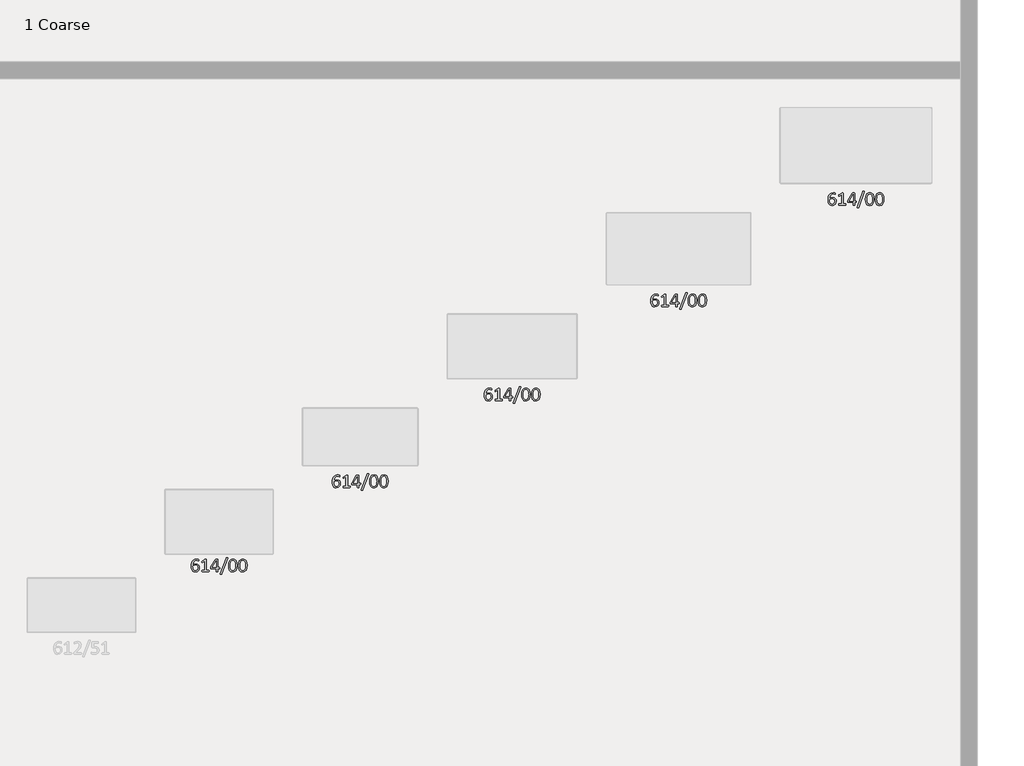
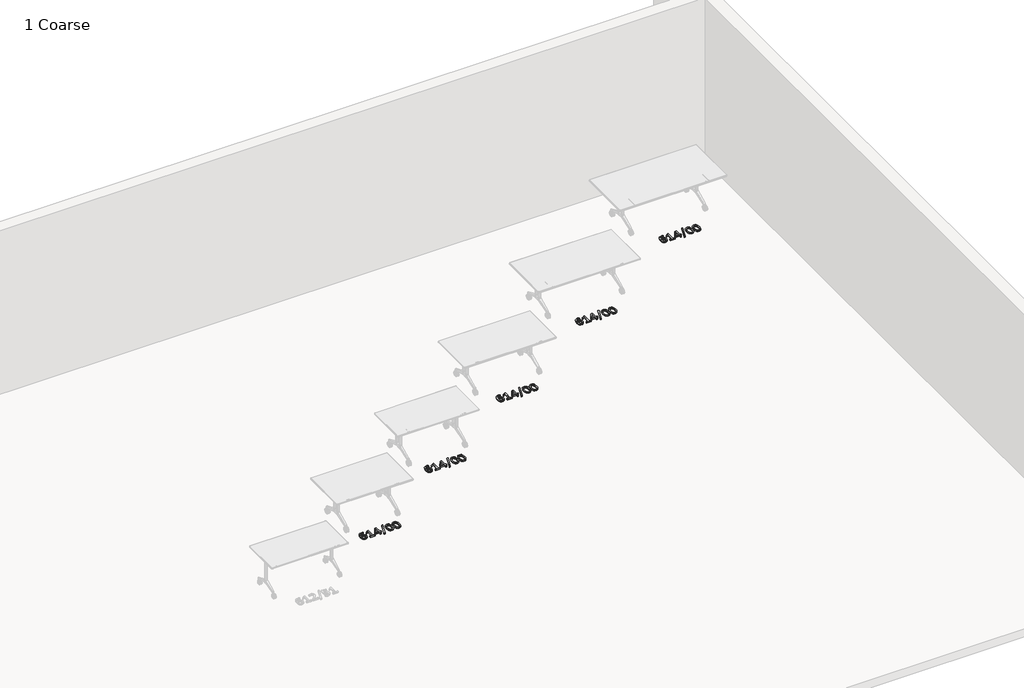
# One storey, part 3 of 3: 5 proxies.
"""IFC4 building model written with IfcOpenShell, lengths in millimetres."""

from ifc_helpers import new_model, si_unit, origin, origin_with_axes, place, context, project, spatial, polyline, outline, extrude, element, save

model = new_model("IFC4")

# Units and contexts
model_context = context("Model", 3, world=origin())
ifc_project = project(units=[si_unit("LENGTHUNIT", "METRE", prefix="MILLI")], contexts=[model_context])

# Site, building, storey
site = spatial("IfcSite", under=ifc_project)
building = spatial("IfcBuilding", under=site)
storey = spatial("IfcBuildingStorey", under=building, Name="1 Coarse", Elevation=0.0)

# Proxies
placement = place(None, origin())
element("IfcBuildingElementProxy", 1, Name="200mm Arial", ObjectType="200mm Arial", at=placement, inside=storey, context=model_context, shape_type="SweptSolid", body=[
    extrude(outline(polyline([(11853.4943741, -3474.9020252), (11850.0876118, -3496.80264), (11839.5855626, -3515.4245662), (11821.6040052, -3528.3344023), (11795.9124069, -3533.2012055), (11777.1624069, -3530.5372711), (11762.9974478, -3522.9553039), (11752.982079, -3510.86514), (11746.5527757, -3494.4973121), (11743.0691692, -3474.3897301), (11742.0189642, -3450.9778449), (11743.1716282, -3428.6417793), (11747.3212183, -3406.8180088), (11755.4154806, -3387.0690334), (11768.1972429, -3370.9829678), (11786.6142511, -3360.1479269), (11811.5886364, -3356.1520252), (11821.2710134, -3356.6899351), (11830.3386364, -3358.1243613), (11837.3314642, -3360.0966973), (11841.0712183, -3361.8385006), (11842.4288003, -3363.2729269), (11843.1460134, -3364.9378859), (11843.5302347, -3366.9870662), (11843.6583085, -3369.7790744), (11843.5814642, -3373.6212875), (11843.0691692, -3376.3620662), (11841.9165052, -3377.9245662), (11840.0722429, -3378.4368613), (11836.2044151, -3377.5147301), (11830.2874069, -3375.4911646), (11821.8601528, -3373.467599), (11810.3591282, -3372.5454678), (11789.7648659, -3377.7708777), (11775.6767511, -3391.8077629), (11767.5824888, -3412.2483367), (11764.5599478, -3436.070058), (11772.2187593, -3432.0997711), (11781.5425298, -3428.5649351), (11792.1982675, -3426.0034596), (11804.2628167, -3425.0044842), (11827.4185544, -3428.7954678), (11842.6849478, -3439.297517), (11851.0097429, -3455.1274351), (11853.4943741, -3474.9020252)]), holes=[polyline([(11830.5435544, -3475.5680088), (11829.0322839, -3461.4542793), (11824.0117921, -3450.6448531), (11814.6111773, -3443.8057137), (11800.1132265, -3441.3979269), (11790.4564642, -3442.2688285), (11781.107079, -3444.6766154), (11772.4749069, -3448.2882957), (11764.9697839, -3452.7708777), (11767.1214232, -3481.7411646), (11773.397038, -3500.4399351), (11783.6429396, -3510.5065334), (11798.0128167, -3513.5290744), (11812.5107675, -3510.3016154), (11822.7054396, -3501.6438285), (11828.6480626, -3489.4512055), (11830.5435544, -3475.5680088)])]), origin_with_axes(), (0.0, 0.0, 1.0), 25.0),
    extrude(outline(polyline([(11987.9206036, -3520.24014), (11987.5363823, -3524.7995662), (11986.4861773, -3527.7964924), (11984.9749069, -3529.4358367), (11983.2074888, -3529.922517), (11894.2730626, -3529.922517), (11892.5824888, -3529.4358367), (11891.0712183, -3527.7964924), (11889.9441692, -3524.7995662), (11889.5599478, -3520.24014), (11889.9441692, -3515.8087875), (11890.9175298, -3512.735017), (11892.3263413, -3510.8907547), (11894.1706036, -3510.2503859), (11928.9042101, -3510.2503859), (11928.9042101, -3382.3815334), (11897.2956036, -3402.0536646), (11893.4277757, -3403.6161646), (11891.0712183, -3403.0270252), (11889.8673249, -3400.235017), (11889.5599478, -3395.342599), (11889.7392511, -3391.6028449), (11890.3027757, -3389.0157547), (11891.3785954, -3387.1971072), (11893.2484724, -3385.6602219), (11931.00462, -3360.967599), (11934.3601528, -3359.8405498), (11937.152161, -3359.507558), (11941.1480626, -3359.4307137), (11946.5015462, -3359.6868613), (11949.8314642, -3360.4040744), (11951.4451937, -3361.5823531), (11951.4451937, -3510.2503859), (11983.1050298, -3510.2503859), (11985.1029806, -3510.8907547), (11986.6398659, -3512.735017), (11987.5876118, -3515.8087875), (11987.9206036, -3520.24014)])), origin_with_axes(), (0.0, 0.0, 1.0), 25.0),
    extrude(outline(polyline([(12133.4124069, -3480.7421892), (12132.0804396, -3487.9399351), (12128.3919151, -3490.5782547), (12109.232079, -3490.5782547), (12109.232079, -3525.8753859), (12108.6941692, -3527.6684187), (12106.7730626, -3528.8979269), (12103.186997, -3529.6663695), (12097.5517511, -3529.922517), (12092.0701937, -3529.6663695), (12088.5609724, -3528.8979269), (12086.7679396, -3527.6684187), (12086.2812593, -3525.8753859), (12086.2812593, -3490.5782547), (12016.8652757, -3490.5782547), (12014.2525708, -3490.1684187), (12012.3826937, -3488.6571482), (12011.2044151, -3485.5065334), (12010.8714232, -3480.1786646), (12010.999497, -3475.5167793), (12011.5117921, -3471.7514105), (12012.561997, -3468.4727219), (12014.0988823, -3465.1171892), (12074.6009314, -3363.4266154), (12076.5476528, -3361.6335826), (12079.8775708, -3360.3528449), (12084.8980626, -3359.6356318), (12091.9165052, -3359.4307137), (12099.7033905, -3359.7637055), (12105.0568741, -3360.6089924), (12108.1562593, -3361.9665744), (12109.232079, -3363.9389105), (12109.232079, -3470.9061236), (12128.3919151, -3470.9061236), (12132.0292101, -3473.3395252), (12133.4124069, -3480.7421892)]), holes=[polyline([(12086.2812593, -3379.1540744), (12031.4656855, -3470.9061236), (12086.2812593, -3470.9061236), (12086.2812593, -3379.1540744)])]), origin_with_axes(), (0.0, 0.0, 1.0), 25.0),
    extrude(outline(polyline([(12164.0988823, -3560.762681), (12162.6900708, -3563.4266154), (12160.5384314, -3564.9378859), (12157.3109724, -3565.7319433), (12152.6747019, -3565.9880908), (12147.2187593, -3565.5270252), (12143.8632265, -3564.2206728), (12142.4288003, -3562.1202629), (12142.9410954, -3559.1745662), (12222.3468331, -3341.7053039), (12223.7556446, -3339.0413695), (12225.8560544, -3337.4788695), (12229.0578987, -3336.6848121), (12233.7710134, -3336.4798941), (12239.1501118, -3336.9409596), (12242.4288003, -3338.1960826), (12243.8888413, -3340.2964924), (12243.50462, -3343.2934187), (12164.0988823, -3560.762681)])), origin_with_axes(), (0.0, 0.0, 1.0), 25.0),
    extrude(outline(polyline([(12374.8058495, -3444.2667793), (12371.7064642, -3480.4348121), (12361.4093331, -3508.5341973), (12353.1101528, -3518.965806), (12342.6081036, -3526.7462875), (12329.6534417, -3531.587476), (12313.9964232, -3533.2012055), (12299.178288, -3531.7539719), (12286.8960134, -3527.4122711), (12276.9574888, -3520.2657547), (12269.1706036, -3510.4040744), (12259.6163003, -3482.7657547), (12256.7730626, -3445.0864514), (12259.9492921, -3408.9952629), (12270.2464232, -3380.8190334), (12278.4879704, -3370.3874248), (12288.9708085, -3362.6069433), (12301.8870482, -3357.7657547), (12317.4288003, -3356.1520252), (12332.3622019, -3357.5992588), (12344.6828987, -3361.9409596), (12354.6214232, -3369.087476), (12362.4083085, -3378.9491564), (12371.9626118, -3406.587476), (12374.8058495, -3444.2667793)]), holes=[polyline([(12351.8550298, -3445.8548941), (12350.9328987, -3423.0321482), (12348.2177347, -3405.1786646), (12343.5558495, -3391.8846072), (12336.7167101, -3382.7145252), (12327.6234724, -3377.4635006), (12316.0968331, -3375.8241564), (12297.7822839, -3381.075181), (12286.6910954, -3395.4962875), (12281.1839232, -3416.9870662), (12279.7238823, -3443.4983367), (12281.7218331, -3475.8241564), (12288.0230626, -3497.5454678), (12299.0374069, -3509.7380908), (12315.3283905, -3513.5290744), (12328.4175298, -3511.172517), (12338.1255216, -3504.4102219), (12344.8109724, -3493.8569433), (12349.0630216, -3480.2298941), (12351.2658905, -3464.0157547), (12351.8550298, -3445.8548941)])]), origin_with_axes(), (0.0, 0.0, 1.0), 25.0),
    extrude(outline(polyline([(12512.5107675, -3444.2667793), (12509.4113823, -3480.4348121), (12499.1142511, -3508.5341973), (12490.8150708, -3518.965806), (12480.3130216, -3526.7462875), (12467.3583597, -3531.587476), (12451.7013413, -3533.2012055), (12436.883206, -3531.7539719), (12424.6009314, -3527.4122711), (12414.6624069, -3520.2657547), (12406.8755216, -3510.4040744), (12397.3212183, -3482.7657547), (12394.4779806, -3445.0864514), (12397.6542101, -3408.9952629), (12407.9513413, -3380.8190334), (12416.1928884, -3370.3874248), (12426.6757265, -3362.6069433), (12439.5919663, -3357.7657547), (12455.1337183, -3356.1520252), (12470.06712, -3357.5992588), (12482.3878167, -3361.9409596), (12492.3263413, -3369.087476), (12500.1132265, -3378.9491564), (12509.6675298, -3406.587476), (12512.5107675, -3444.2667793)]), holes=[polyline([(12489.5599478, -3445.8548941), (12488.6378167, -3423.0321482), (12485.9226528, -3405.1786646), (12481.2607675, -3391.8846072), (12474.4216282, -3382.7145252), (12465.3283905, -3377.4635006), (12453.8017511, -3375.8241564), (12435.4872019, -3381.075181), (12424.3960134, -3395.4962875), (12418.8888413, -3416.9870662), (12417.4288003, -3443.4983367), (12419.4267511, -3475.8241564), (12425.7279806, -3497.5454678), (12436.7423249, -3509.7380908), (12453.0333085, -3513.5290744), (12466.1224478, -3511.172517), (12475.8304396, -3504.4102219), (12482.5158905, -3493.8569433), (12486.7679396, -3480.2298941), (12488.9708085, -3464.0157547), (12489.5599478, -3445.8548941)])]), origin_with_axes(), (0.0, 0.0, 1.0), 25.0),
])
element("IfcBuildingElementProxy", 2, Name="200mm Arial", ObjectType="200mm Arial", at=placement, inside=storey, context=model_context, shape_type="SweptSolid", body=[
    extrude(outline(polyline([(13803.4943741, -2312.0322854), (13800.0876118, -2333.9329001), (13789.5855626, -2352.5548264), (13771.6040052, -2365.4646624), (13745.9124069, -2370.3314657), (13727.1624069, -2367.6675313), (13712.9974478, -2360.0855641), (13702.982079, -2347.9954001), (13696.5527757, -2331.6275723), (13693.0691692, -2311.5199903), (13692.0189642, -2288.1081051), (13693.1716282, -2265.7720395), (13697.3212183, -2243.948269), (13705.4154806, -2224.1992936), (13718.1972429, -2208.113228), (13736.6142511, -2197.278187), (13761.5886364, -2193.2822854), (13771.2710134, -2193.8201952), (13780.3386364, -2195.2546214), (13787.3314642, -2197.2269575), (13791.0712183, -2198.9687608), (13792.4288003, -2200.403187), (13793.1460134, -2202.068146), (13793.5302347, -2204.1173264), (13793.6583085, -2206.9093346), (13793.5814642, -2210.7515477), (13793.0691692, -2213.4923264), (13791.9165052, -2215.0548264), (13790.0722429, -2215.5671214), (13786.2044151, -2214.6449903), (13780.2874069, -2212.6214247), (13771.8601528, -2210.5978592), (13760.3591282, -2209.675728), (13739.7648659, -2214.9011378), (13725.6767511, -2228.9380231), (13717.5824888, -2249.3785969), (13714.5599478, -2273.2003182), (13722.2187593, -2269.2300313), (13731.5425298, -2265.6951952), (13742.1982675, -2263.1337198), (13754.2628167, -2262.1347444), (13777.4185544, -2265.925728), (13792.6849478, -2276.4277772), (13801.0097429, -2292.2576952), (13803.4943741, -2312.0322854)]), holes=[polyline([(13780.5435544, -2312.698269), (13779.0322839, -2298.5845395), (13774.0117921, -2287.7751133), (13764.6111773, -2280.9359739), (13750.1132265, -2278.528187), (13740.4564642, -2279.3990887), (13731.107079, -2281.8068755), (13722.4749069, -2285.4185559), (13714.9697839, -2289.9011378), (13717.1214232, -2318.8714247), (13723.397038, -2337.5701952), (13733.6429396, -2347.6367936), (13748.0128167, -2350.6593346), (13762.5107675, -2347.4318755), (13772.7054396, -2338.7740887), (13778.6480626, -2326.5814657), (13780.5435544, -2312.698269)])]), origin_with_axes(), (0.0, 0.0, 1.0), 25.0),
    extrude(outline(polyline([(13937.9206036, -2357.3704001), (13937.5363823, -2361.9298264), (13936.4861773, -2364.9267526), (13934.9749069, -2366.5660969), (13933.2074888, -2367.0527772), (13844.2730626, -2367.0527772), (13842.5824888, -2366.5660969), (13841.0712183, -2364.9267526), (13839.9441692, -2361.9298264), (13839.5599478, -2357.3704001), (13839.9441692, -2352.9390477), (13840.9175298, -2349.8652772), (13842.3263413, -2348.0210149), (13844.1706036, -2347.380646), (13878.9042101, -2347.380646), (13878.9042101, -2219.5117936), (13847.2956036, -2239.1839247), (13843.4277757, -2240.7464247), (13841.0712183, -2240.1572854), (13839.8673249, -2237.3652772), (13839.5599478, -2232.4728592), (13839.7392511, -2228.7331051), (13840.3027757, -2226.1460149), (13841.3785954, -2224.3273674), (13843.2484724, -2222.7904821), (13881.00462, -2198.0978592), (13884.3601528, -2196.97081), (13887.152161, -2196.6378182), (13891.1480626, -2196.5609739), (13896.5015462, -2196.8171214), (13899.8314642, -2197.5343346), (13901.4451937, -2198.7126133), (13901.4451937, -2347.380646), (13933.1050298, -2347.380646), (13935.1029806, -2348.0210149), (13936.6398659, -2349.8652772), (13937.5876118, -2352.9390477), (13937.9206036, -2357.3704001)])), origin_with_axes(), (0.0, 0.0, 1.0), 25.0),
    extrude(outline(polyline([(14083.4124069, -2317.8724493), (14082.0804396, -2325.0701952), (14078.3919151, -2327.7085149), (14059.232079, -2327.7085149), (14059.232079, -2363.005646), (14058.6941692, -2364.7986788), (14056.7730626, -2366.028187), (14053.186997, -2366.7966296), (14047.5517511, -2367.0527772), (14042.0701937, -2366.7966296), (14038.5609724, -2366.028187), (14036.7679396, -2364.7986788), (14036.2812593, -2363.005646), (14036.2812593, -2327.7085149), (13966.8652757, -2327.7085149), (13964.2525708, -2327.2986788), (13962.3826937, -2325.7874083), (13961.2044151, -2322.6367936), (13960.8714232, -2317.3089247), (13960.999497, -2312.6470395), (13961.5117921, -2308.8816706), (13962.561997, -2305.6029821), (13964.0988823, -2302.2474493), (14024.6009314, -2200.5568755), (14026.5476528, -2198.7638428), (14029.8775708, -2197.4831051), (14034.8980626, -2196.7658919), (14041.9165052, -2196.5609739), (14049.7033905, -2196.8939657), (14055.0568741, -2197.7392526), (14058.1562593, -2199.0968346), (14059.232079, -2201.0691706), (14059.232079, -2308.0363837), (14078.3919151, -2308.0363837), (14082.0292101, -2310.4697854), (14083.4124069, -2317.8724493)]), holes=[polyline([(14036.2812593, -2216.2843346), (13981.4656855, -2308.0363837), (14036.2812593, -2308.0363837), (14036.2812593, -2216.2843346)])]), origin_with_axes(), (0.0, 0.0, 1.0), 25.0),
    extrude(outline(polyline([(14114.0988823, -2397.8929411), (14112.6900708, -2400.5568755), (14110.5384314, -2402.068146), (14107.3109724, -2402.8622034), (14102.6747019, -2403.118351), (14097.2187593, -2402.6572854), (14093.8632265, -2401.3509329), (14092.4288003, -2399.2505231), (14092.9410954, -2396.3048264), (14172.3468331, -2178.8355641), (14173.7556446, -2176.1716296), (14175.8560544, -2174.6091296), (14179.0578987, -2173.8150723), (14183.7710134, -2173.6101542), (14189.1501118, -2174.0712198), (14192.4288003, -2175.3263428), (14193.8888413, -2177.4267526), (14193.50462, -2180.4236788), (14114.0988823, -2397.8929411)])), origin_with_axes(), (0.0, 0.0, 1.0), 25.0),
    extrude(outline(polyline([(14324.8058495, -2281.3970395), (14321.7064642, -2317.5650723), (14311.4093331, -2345.6644575), (14303.1101528, -2356.0960661), (14292.6081036, -2363.8765477), (14279.6534417, -2368.7177362), (14263.9964232, -2370.3314657), (14249.178288, -2368.8842321), (14236.8960134, -2364.5425313), (14226.9574888, -2357.3960149), (14219.1706036, -2347.5343346), (14209.6163003, -2319.8960149), (14206.7730626, -2282.2167116), (14209.9492921, -2246.1255231), (14220.2464232, -2217.9492936), (14228.4879704, -2207.517685), (14238.9708085, -2199.7372034), (14251.8870482, -2194.8960149), (14267.4288003, -2193.2822854), (14282.3622019, -2194.729519), (14294.6828987, -2199.0712198), (14304.6214232, -2206.2177362), (14312.4083085, -2216.0794165), (14321.9626118, -2243.7177362), (14324.8058495, -2281.3970395)]), holes=[polyline([(14301.8550298, -2282.9851542), (14300.9328987, -2260.1624083), (14298.2177347, -2242.3089247), (14293.5558495, -2229.0148674), (14286.7167101, -2219.8447854), (14277.6234724, -2214.5937608), (14266.0968331, -2212.9544165), (14247.7822839, -2218.2054411), (14236.6910954, -2232.6265477), (14231.1839232, -2254.1173264), (14229.7238823, -2280.6285969), (14231.7218331, -2312.9544165), (14238.0230626, -2334.675728), (14249.0374069, -2346.868351), (14265.3283905, -2350.6593346), (14278.4175298, -2348.3027772), (14288.1255216, -2341.5404821), (14294.8109724, -2330.9872034), (14299.0630216, -2317.3601542), (14301.2658905, -2301.1460149), (14301.8550298, -2282.9851542)])]), origin_with_axes(), (0.0, 0.0, 1.0), 25.0),
    extrude(outline(polyline([(14462.5107675, -2281.3970395), (14459.4113823, -2317.5650723), (14449.1142511, -2345.6644575), (14440.8150708, -2356.0960661), (14430.3130216, -2363.8765477), (14417.3583597, -2368.7177362), (14401.7013413, -2370.3314657), (14386.883206, -2368.8842321), (14374.6009314, -2364.5425313), (14364.6624069, -2357.3960149), (14356.8755216, -2347.5343346), (14347.3212183, -2319.8960149), (14344.4779806, -2282.2167116), (14347.6542101, -2246.1255231), (14357.9513413, -2217.9492936), (14366.1928884, -2207.517685), (14376.6757265, -2199.7372034), (14389.5919663, -2194.8960149), (14405.1337183, -2193.2822854), (14420.06712, -2194.729519), (14432.3878167, -2199.0712198), (14442.3263413, -2206.2177362), (14450.1132265, -2216.0794165), (14459.6675298, -2243.7177362), (14462.5107675, -2281.3970395)]), holes=[polyline([(14439.5599478, -2282.9851542), (14438.6378167, -2260.1624083), (14435.9226528, -2242.3089247), (14431.2607675, -2229.0148674), (14424.4216282, -2219.8447854), (14415.3283905, -2214.5937608), (14403.8017511, -2212.9544165), (14385.4872019, -2218.2054411), (14374.3960134, -2232.6265477), (14368.8888413, -2254.1173264), (14367.4288003, -2280.6285969), (14369.4267511, -2312.9544165), (14375.7279806, -2334.675728), (14386.7423249, -2346.868351), (14403.0333085, -2350.6593346), (14416.1224478, -2348.3027772), (14425.8304396, -2341.5404821), (14432.5158905, -2330.9872034), (14436.7679396, -2317.3601542), (14438.9708085, -2301.1460149), (14439.5599478, -2282.9851542)])]), origin_with_axes(), (0.0, 0.0, 1.0), 25.0),
])
element("IfcBuildingElementProxy", 3, Name="200mm Arial", ObjectType="200mm Arial", at=placement, inside=storey, context=model_context, shape_type="SweptSolid", body=[
    extrude(outline(polyline([(15903.4943741, -1112.0322854), (15900.0876118, -1133.9329001), (15889.5855626, -1152.5548264), (15871.6040052, -1165.4646624), (15845.9124069, -1170.3314657), (15827.1624069, -1167.6675313), (15812.9974478, -1160.0855641), (15802.982079, -1147.9954001), (15796.5527757, -1131.6275723), (15793.0691692, -1111.5199903), (15792.0189642, -1088.1081051), (15793.1716282, -1065.7720395), (15797.3212183, -1043.948269), (15805.4154806, -1024.1992936), (15818.1972429, -1008.113228), (15836.6142511, -997.278187), (15861.5886364, -993.2822854), (15871.2710134, -993.8201952), (15880.3386364, -995.2546214), (15887.3314642, -997.2269575), (15891.0712183, -998.9687608), (15892.4288003, -1000.403187), (15893.1460134, -1002.068146), (15893.5302347, -1004.1173264), (15893.6583085, -1006.9093346), (15893.5814642, -1010.7515477), (15893.0691692, -1013.4923264), (15891.9165052, -1015.0548264), (15890.0722429, -1015.5671214), (15886.2044151, -1014.6449903), (15880.2874069, -1012.6214247), (15871.8601528, -1010.5978592), (15860.3591282, -1009.675728), (15839.7648659, -1014.9011378), (15825.6767511, -1028.9380231), (15817.5824888, -1049.3785969), (15814.5599478, -1073.2003182), (15822.2187593, -1069.2300313), (15831.5425298, -1065.6951952), (15842.1982675, -1063.1337198), (15854.2628167, -1062.1347444), (15877.4185544, -1065.925728), (15892.6849478, -1076.4277772), (15901.0097429, -1092.2576952), (15903.4943741, -1112.0322854)]), holes=[polyline([(15880.5435544, -1112.698269), (15879.0322839, -1098.5845395), (15874.0117921, -1087.7751133), (15864.6111773, -1080.9359739), (15850.1132265, -1078.528187), (15840.4564642, -1079.3990887), (15831.107079, -1081.8068755), (15822.4749069, -1085.4185559), (15814.9697839, -1089.9011378), (15817.1214232, -1118.8714247), (15823.397038, -1137.5701952), (15833.6429396, -1147.6367936), (15848.0128167, -1150.6593346), (15862.5107675, -1147.4318755), (15872.7054396, -1138.7740887), (15878.6480626, -1126.5814657), (15880.5435544, -1112.698269)])]), origin_with_axes(), (0.0, 0.0, 1.0), 25.0),
    extrude(outline(polyline([(16037.9206036, -1157.3704001), (16037.5363823, -1161.9298264), (16036.4861773, -1164.9267526), (16034.9749069, -1166.5660969), (16033.2074888, -1167.0527772), (15944.2730626, -1167.0527772), (15942.5824888, -1166.5660969), (15941.0712183, -1164.9267526), (15939.9441692, -1161.9298264), (15939.5599478, -1157.3704001), (15939.9441692, -1152.9390477), (15940.9175298, -1149.8652772), (15942.3263413, -1148.0210149), (15944.1706036, -1147.380646), (15978.9042101, -1147.380646), (15978.9042101, -1019.5117936), (15947.2956036, -1039.1839247), (15943.4277757, -1040.7464247), (15941.0712183, -1040.1572854), (15939.8673249, -1037.3652772), (15939.5599478, -1032.4728592), (15939.7392511, -1028.7331051), (15940.3027757, -1026.1460149), (15941.3785954, -1024.3273674), (15943.2484724, -1022.7904821), (15981.00462, -998.0978592), (15984.3601528, -996.97081), (15987.152161, -996.6378182), (15991.1480626, -996.5609739), (15996.5015462, -996.8171214), (15999.8314642, -997.5343346), (16001.4451937, -998.7126133), (16001.4451937, -1147.380646), (16033.1050298, -1147.380646), (16035.1029806, -1148.0210149), (16036.6398659, -1149.8652772), (16037.5876118, -1152.9390477), (16037.9206036, -1157.3704001)])), origin_with_axes(), (0.0, 0.0, 1.0), 25.0),
    extrude(outline(polyline([(16183.4124069, -1117.8724493), (16182.0804396, -1125.0701952), (16178.3919151, -1127.7085149), (16159.232079, -1127.7085149), (16159.232079, -1163.005646), (16158.6941692, -1164.7986788), (16156.7730626, -1166.028187), (16153.186997, -1166.7966296), (16147.5517511, -1167.0527772), (16142.0701937, -1166.7966296), (16138.5609724, -1166.028187), (16136.7679396, -1164.7986788), (16136.2812593, -1163.005646), (16136.2812593, -1127.7085149), (16066.8652757, -1127.7085149), (16064.2525708, -1127.2986788), (16062.3826937, -1125.7874083), (16061.2044151, -1122.6367936), (16060.8714232, -1117.3089247), (16060.999497, -1112.6470395), (16061.5117921, -1108.8816706), (16062.561997, -1105.6029821), (16064.0988823, -1102.2474493), (16124.6009314, -1000.5568755), (16126.5476528, -998.7638428), (16129.8775708, -997.4831051), (16134.8980626, -996.7658919), (16141.9165052, -996.5609739), (16149.7033905, -996.8939657), (16155.0568741, -997.7392526), (16158.1562593, -999.0968346), (16159.232079, -1001.0691706), (16159.232079, -1108.0363837), (16178.3919151, -1108.0363837), (16182.0292101, -1110.4697854), (16183.4124069, -1117.8724493)]), holes=[polyline([(16136.2812593, -1016.2843346), (16081.4656855, -1108.0363837), (16136.2812593, -1108.0363837), (16136.2812593, -1016.2843346)])]), origin_with_axes(), (0.0, 0.0, 1.0), 25.0),
    extrude(outline(polyline([(16214.0988823, -1197.8929411), (16212.6900708, -1200.5568755), (16210.5384314, -1202.068146), (16207.3109724, -1202.8622034), (16202.6747019, -1203.118351), (16197.2187593, -1202.6572854), (16193.8632265, -1201.3509329), (16192.4288003, -1199.2505231), (16192.9410954, -1196.3048264), (16272.3468331, -978.8355641), (16273.7556446, -976.1716296), (16275.8560544, -974.6091296), (16279.0578987, -973.8150723), (16283.7710134, -973.6101542), (16289.1501118, -974.0712198), (16292.4288003, -975.3263428), (16293.8888413, -977.4267526), (16293.50462, -980.4236788), (16214.0988823, -1197.8929411)])), origin_with_axes(), (0.0, 0.0, 1.0), 25.0),
    extrude(outline(polyline([(16424.8058495, -1081.3970395), (16421.7064642, -1117.5650723), (16411.4093331, -1145.6644575), (16403.1101528, -1156.0960661), (16392.6081036, -1163.8765477), (16379.6534417, -1168.7177362), (16363.9964232, -1170.3314657), (16349.178288, -1168.8842321), (16336.8960134, -1164.5425313), (16326.9574888, -1157.3960149), (16319.1706036, -1147.5343346), (16309.6163003, -1119.8960149), (16306.7730626, -1082.2167116), (16309.9492921, -1046.1255231), (16320.2464232, -1017.9492936), (16328.4879704, -1007.517685), (16338.9708085, -999.7372034), (16351.8870482, -994.8960149), (16367.4288003, -993.2822854), (16382.3622019, -994.729519), (16394.6828987, -999.0712198), (16404.6214232, -1006.2177362), (16412.4083085, -1016.0794165), (16421.9626118, -1043.7177362), (16424.8058495, -1081.3970395)]), holes=[polyline([(16401.8550298, -1082.9851542), (16400.9328987, -1060.1624083), (16398.2177347, -1042.3089247), (16393.5558495, -1029.0148674), (16386.7167101, -1019.8447854), (16377.6234724, -1014.5937608), (16366.0968331, -1012.9544165), (16347.7822839, -1018.2054411), (16336.6910954, -1032.6265477), (16331.1839232, -1054.1173264), (16329.7238823, -1080.6285969), (16331.7218331, -1112.9544165), (16338.0230626, -1134.675728), (16349.0374069, -1146.868351), (16365.3283905, -1150.6593346), (16378.4175298, -1148.3027772), (16388.1255216, -1141.5404821), (16394.8109724, -1130.9872034), (16399.0630216, -1117.3601542), (16401.2658905, -1101.1460149), (16401.8550298, -1082.9851542)])]), origin_with_axes(), (0.0, 0.0, 1.0), 25.0),
    extrude(outline(polyline([(16562.5107675, -1081.3970395), (16559.4113823, -1117.5650723), (16549.1142511, -1145.6644575), (16540.8150708, -1156.0960661), (16530.3130216, -1163.8765477), (16517.3583597, -1168.7177362), (16501.7013413, -1170.3314657), (16486.883206, -1168.8842321), (16474.6009314, -1164.5425313), (16464.6624069, -1157.3960149), (16456.8755216, -1147.5343346), (16447.3212183, -1119.8960149), (16444.4779806, -1082.2167116), (16447.6542101, -1046.1255231), (16457.9513413, -1017.9492936), (16466.1928884, -1007.517685), (16476.6757265, -999.7372034), (16489.5919663, -994.8960149), (16505.1337183, -993.2822854), (16520.06712, -994.729519), (16532.3878167, -999.0712198), (16542.3263413, -1006.2177362), (16550.1132265, -1016.0794165), (16559.6675298, -1043.7177362), (16562.5107675, -1081.3970395)]), holes=[polyline([(16539.5599478, -1082.9851542), (16538.6378167, -1060.1624083), (16535.9226528, -1042.3089247), (16531.2607675, -1029.0148674), (16524.4216282, -1019.8447854), (16515.3283905, -1014.5937608), (16503.8017511, -1012.9544165), (16485.4872019, -1018.2054411), (16474.3960134, -1032.6265477), (16468.8888413, -1054.1173264), (16467.4288003, -1080.6285969), (16469.4267511, -1112.9544165), (16475.7279806, -1134.675728), (16486.7423249, -1146.868351), (16503.0333085, -1150.6593346), (16516.1224478, -1148.3027772), (16525.8304396, -1141.5404821), (16532.5158905, -1130.9872034), (16536.7679396, -1117.3601542), (16538.9708085, -1101.1460149), (16539.5599478, -1082.9851542)])]), origin_with_axes(), (0.0, 0.0, 1.0), 25.0),
])
element("IfcBuildingElementProxy", 4, Name="200mm Arial", ObjectType="200mm Arial", at=placement, inside=storey, context=model_context, shape_type="SweptSolid", body=[
    extrude(outline(polyline([(18203.4943741, 187.9677146), (18200.0876118, 166.0670999), (18189.5855626, 147.4451736), (18171.6040052, 134.5353376), (18145.9124069, 129.6685343), (18127.1624069, 132.3324687), (18112.9974478, 139.9144359), (18102.982079, 152.0045999), (18096.5527757, 168.3724277), (18093.0691692, 188.4800097), (18092.0189642, 211.8918949), (18093.1716282, 234.2279605), (18097.3212183, 256.051731), (18105.4154806, 275.8007064), (18118.1972429, 291.886772), (18136.6142511, 302.721813), (18161.5886364, 306.7177146), (18171.2710134, 306.1798048), (18180.3386364, 304.7453786), (18187.3314642, 302.7730425), (18191.0712183, 301.0312392), (18192.4288003, 299.596813), (18193.1460134, 297.931854), (18193.5302347, 295.8826736), (18193.6583085, 293.0906654), (18193.5814642, 289.2484523), (18193.0691692, 286.5076736), (18191.9165052, 284.9451736), (18190.0722429, 284.4328786), (18186.2044151, 285.3550097), (18180.2874069, 287.3785753), (18171.8601528, 289.4021408), (18160.3591282, 290.324272), (18139.7648659, 285.0988622), (18125.6767511, 271.0619769), (18117.5824888, 250.6214031), (18114.5599478, 226.7996818), (18122.2187593, 230.7699687), (18131.5425298, 234.3048048), (18142.1982675, 236.8662802), (18154.2628167, 237.8652556), (18177.4185544, 234.074272), (18192.6849478, 223.5722228), (18201.0097429, 207.7423048), (18203.4943741, 187.9677146)]), holes=[polyline([(18180.5435544, 187.301731), (18179.0322839, 201.4154605), (18174.0117921, 212.2248867), (18164.6111773, 219.0640261), (18150.1132265, 221.471813), (18140.4564642, 220.6009113), (18131.107079, 218.1931245), (18122.4749069, 214.5814441), (18114.9697839, 210.0988622), (18117.1214232, 181.1285753), (18123.397038, 162.4298048), (18133.6429396, 152.3632064), (18148.0128167, 149.3406654), (18162.5107675, 152.5681245), (18172.7054396, 161.2259113), (18178.6480626, 173.4185343), (18180.5435544, 187.301731)])]), origin_with_axes(), (0.0, 0.0, 1.0), 25.0),
    extrude(outline(polyline([(18337.9206036, 142.6295999), (18337.5363823, 138.0701736), (18336.4861773, 135.0732474), (18334.9749069, 133.4339031), (18333.2074888, 132.9472228), (18244.2730626, 132.9472228), (18242.5824888, 133.4339031), (18241.0712183, 135.0732474), (18239.9441692, 138.0701736), (18239.5599478, 142.6295999), (18239.9441692, 147.0609523), (18240.9175298, 150.1347228), (18242.3263413, 151.9789851), (18244.1706036, 152.619354), (18278.9042101, 152.619354), (18278.9042101, 280.4882064), (18247.2956036, 260.8160753), (18243.4277757, 259.2535753), (18241.0712183, 259.8427146), (18239.8673249, 262.6347228), (18239.5599478, 267.5271408), (18239.7392511, 271.2668949), (18240.3027757, 273.8539851), (18241.3785954, 275.6726326), (18243.2484724, 277.2095179), (18281.00462, 301.9021408), (18284.3601528, 303.02919), (18287.152161, 303.3621818), (18291.1480626, 303.4390261), (18296.5015462, 303.1828786), (18299.8314642, 302.4656654), (18301.4451937, 301.2873867), (18301.4451937, 152.619354), (18333.1050298, 152.619354), (18335.1029806, 151.9789851), (18336.6398659, 150.1347228), (18337.5876118, 147.0609523), (18337.9206036, 142.6295999)])), origin_with_axes(), (0.0, 0.0, 1.0), 25.0),
    extrude(outline(polyline([(18483.4124069, 182.1275507), (18482.0804396, 174.9298048), (18478.3919151, 172.2914851), (18459.232079, 172.2914851), (18459.232079, 136.994354), (18458.6941692, 135.2013212), (18456.7730626, 133.971813), (18453.186997, 133.2033704), (18447.5517511, 132.9472228), (18442.0701937, 133.2033704), (18438.5609724, 133.971813), (18436.7679396, 135.2013212), (18436.2812593, 136.994354), (18436.2812593, 172.2914851), (18366.8652757, 172.2914851), (18364.2525708, 172.7013212), (18362.3826937, 174.2125917), (18361.2044151, 177.3632064), (18360.8714232, 182.6910753), (18360.999497, 187.3529605), (18361.5117921, 191.1183294), (18362.561997, 194.3970179), (18364.0988823, 197.7525507), (18424.6009314, 299.4431245), (18426.5476528, 301.2361572), (18429.8775708, 302.5168949), (18434.8980626, 303.2341081), (18441.9165052, 303.4390261), (18449.7033905, 303.1060343), (18455.0568741, 302.2607474), (18458.1562593, 300.9031654), (18459.232079, 298.9308294), (18459.232079, 191.9636163), (18478.3919151, 191.9636163), (18482.0292101, 189.5302146), (18483.4124069, 182.1275507)]), holes=[polyline([(18436.2812593, 283.7156654), (18381.4656855, 191.9636163), (18436.2812593, 191.9636163), (18436.2812593, 283.7156654)])]), origin_with_axes(), (0.0, 0.0, 1.0), 25.0),
    extrude(outline(polyline([(18514.0988823, 102.1070589), (18512.6900708, 99.4431245), (18510.5384314, 97.931854), (18507.3109724, 97.1377966), (18502.6747019, 96.881649), (18497.2187593, 97.3427146), (18493.8632265, 98.6490671), (18492.4288003, 100.7494769), (18492.9410954, 103.6951736), (18572.3468331, 321.1644359), (18573.7556446, 323.8283704), (18575.8560544, 325.3908704), (18579.0578987, 326.1849277), (18583.7710134, 326.3898458), (18589.1501118, 325.9287802), (18592.4288003, 324.6736572), (18593.8888413, 322.5732474), (18593.50462, 319.5763212), (18514.0988823, 102.1070589)])), origin_with_axes(), (0.0, 0.0, 1.0), 25.0),
    extrude(outline(polyline([(18724.8058495, 218.6029605), (18721.7064642, 182.4349277), (18711.4093331, 154.3355425), (18703.1101528, 143.9039339), (18692.6081036, 136.1234523), (18679.6534417, 131.2822638), (18663.9964232, 129.6685343), (18649.178288, 131.1157679), (18636.8960134, 135.4574687), (18626.9574888, 142.6039851), (18619.1706036, 152.4656654), (18609.6163003, 180.1039851), (18606.7730626, 217.7832884), (18609.9492921, 253.8744769), (18620.2464232, 282.0507064), (18628.4879704, 292.482315), (18638.9708085, 300.2627966), (18651.8870482, 305.1039851), (18667.4288003, 306.7177146), (18682.3622019, 305.270481), (18694.6828987, 300.9287802), (18704.6214232, 293.7822638), (18712.4083085, 283.9205835), (18721.9626118, 256.2822638), (18724.8058495, 218.6029605)]), holes=[polyline([(18701.8550298, 217.0148458), (18700.9328987, 239.8375917), (18698.2177347, 257.6910753), (18693.5558495, 270.9851326), (18686.7167101, 280.1552146), (18677.6234724, 285.4062392), (18666.0968331, 287.0455835), (18647.7822839, 281.7945589), (18636.6910954, 267.3734523), (18631.1839232, 245.8826736), (18629.7238823, 219.3714031), (18631.7218331, 187.0455835), (18638.0230626, 165.324272), (18649.0374069, 153.131649), (18665.3283905, 149.3406654), (18678.4175298, 151.6972228), (18688.1255216, 158.4595179), (18694.8109724, 169.0127966), (18699.0630216, 182.6398458), (18701.2658905, 198.8539851), (18701.8550298, 217.0148458)])]), origin_with_axes(), (0.0, 0.0, 1.0), 25.0),
    extrude(outline(polyline([(18862.5107675, 218.6029605), (18859.4113823, 182.4349277), (18849.1142511, 154.3355425), (18840.8150708, 143.9039339), (18830.3130216, 136.1234523), (18817.3583597, 131.2822638), (18801.7013413, 129.6685343), (18786.883206, 131.1157679), (18774.6009314, 135.4574687), (18764.6624069, 142.6039851), (18756.8755216, 152.4656654), (18747.3212183, 180.1039851), (18744.4779806, 217.7832884), (18747.6542101, 253.8744769), (18757.9513413, 282.0507064), (18766.1928884, 292.482315), (18776.6757265, 300.2627966), (18789.5919663, 305.1039851), (18805.1337183, 306.7177146), (18820.06712, 305.270481), (18832.3878167, 300.9287802), (18842.3263413, 293.7822638), (18850.1132265, 283.9205835), (18859.6675298, 256.2822638), (18862.5107675, 218.6029605)]), holes=[polyline([(18839.5599478, 217.0148458), (18838.6378167, 239.8375917), (18835.9226528, 257.6910753), (18831.2607675, 270.9851326), (18824.4216282, 280.1552146), (18815.3283905, 285.4062392), (18803.8017511, 287.0455835), (18785.4872019, 281.7945589), (18774.3960134, 267.3734523), (18768.8888413, 245.8826736), (18767.4288003, 219.3714031), (18769.4267511, 187.0455835), (18775.7279806, 165.324272), (18786.7423249, 153.131649), (18803.0333085, 149.3406654), (18816.1224478, 151.6972228), (18825.8304396, 158.4595179), (18832.5158905, 169.0127966), (18836.7679396, 182.6398458), (18838.9708085, 198.8539851), (18839.5599478, 217.0148458)])]), origin_with_axes(), (0.0, 0.0, 1.0), 25.0),
])
element("IfcBuildingElementProxy", 5, Name="200mm Arial", ObjectType="200mm Arial", at=placement, inside=storey, context=model_context, shape_type="SweptSolid", body=[
    extrude(outline(polyline([(20653.4943741, 1587.9677146), (20650.0876118, 1566.0670999), (20639.5855626, 1547.4451736), (20621.6040052, 1534.5353376), (20595.9124069, 1529.6685343), (20577.1624069, 1532.3324687), (20562.9974478, 1539.9144359), (20552.982079, 1552.0045999), (20546.5527757, 1568.3724277), (20543.0691692, 1588.4800097), (20542.0189642, 1611.8918949), (20543.1716282, 1634.2279605), (20547.3212183, 1656.051731), (20555.4154806, 1675.8007064), (20568.1972429, 1691.886772), (20586.6142511, 1702.721813), (20611.5886364, 1706.7177146), (20621.2710134, 1706.1798048), (20630.3386364, 1704.7453786), (20637.3314642, 1702.7730425), (20641.0712183, 1701.0312392), (20642.4288003, 1699.596813), (20643.1460134, 1697.931854), (20643.5302347, 1695.8826736), (20643.6583085, 1693.0906654), (20643.5814642, 1689.2484523), (20643.0691692, 1686.5076736), (20641.9165052, 1684.9451736), (20640.0722429, 1684.4328786), (20636.2044151, 1685.3550097), (20630.2874069, 1687.3785753), (20621.8601528, 1689.4021408), (20610.3591282, 1690.324272), (20589.7648659, 1685.0988622), (20575.6767511, 1671.0619769), (20567.5824888, 1650.6214031), (20564.5599478, 1626.7996818), (20572.2187593, 1630.7699687), (20581.5425298, 1634.3048048), (20592.1982675, 1636.8662802), (20604.2628167, 1637.8652556), (20627.4185544, 1634.074272), (20642.6849478, 1623.5722228), (20651.0097429, 1607.7423048), (20653.4943741, 1587.9677146)]), holes=[polyline([(20630.5435544, 1587.301731), (20629.0322839, 1601.4154605), (20624.0117921, 1612.2248867), (20614.6111773, 1619.0640261), (20600.1132265, 1621.471813), (20590.4564642, 1620.6009113), (20581.107079, 1618.1931245), (20572.4749069, 1614.5814441), (20564.9697839, 1610.0988622), (20567.1214232, 1581.1285753), (20573.397038, 1562.4298048), (20583.6429396, 1552.3632064), (20598.0128167, 1549.3406654), (20612.5107675, 1552.5681245), (20622.7054396, 1561.2259113), (20628.6480626, 1573.4185343), (20630.5435544, 1587.301731)])]), origin_with_axes(), (0.0, 0.0, 1.0), 25.0),
    extrude(outline(polyline([(20787.9206036, 1542.6295999), (20787.5363823, 1538.0701736), (20786.4861773, 1535.0732474), (20784.9749069, 1533.4339031), (20783.2074888, 1532.9472228), (20694.2730626, 1532.9472228), (20692.5824888, 1533.4339031), (20691.0712183, 1535.0732474), (20689.9441692, 1538.0701736), (20689.5599478, 1542.6295999), (20689.9441692, 1547.0609523), (20690.9175298, 1550.1347228), (20692.3263413, 1551.9789851), (20694.1706036, 1552.619354), (20728.9042101, 1552.619354), (20728.9042101, 1680.4882064), (20697.2956036, 1660.8160753), (20693.4277757, 1659.2535753), (20691.0712183, 1659.8427146), (20689.8673249, 1662.6347228), (20689.5599478, 1667.5271408), (20689.7392511, 1671.2668949), (20690.3027757, 1673.8539851), (20691.3785954, 1675.6726326), (20693.2484724, 1677.2095179), (20731.00462, 1701.9021408), (20734.3601528, 1703.02919), (20737.152161, 1703.3621818), (20741.1480626, 1703.4390261), (20746.5015462, 1703.1828786), (20749.8314642, 1702.4656654), (20751.4451937, 1701.2873867), (20751.4451937, 1552.619354), (20783.1050298, 1552.619354), (20785.1029806, 1551.9789851), (20786.6398659, 1550.1347228), (20787.5876118, 1547.0609523), (20787.9206036, 1542.6295999)])), origin_with_axes(), (0.0, 0.0, 1.0), 25.0),
    extrude(outline(polyline([(20933.4124069, 1582.1275507), (20932.0804396, 1574.9298048), (20928.3919151, 1572.2914851), (20909.232079, 1572.2914851), (20909.232079, 1536.994354), (20908.6941692, 1535.2013212), (20906.7730626, 1533.971813), (20903.186997, 1533.2033704), (20897.5517511, 1532.9472228), (20892.0701937, 1533.2033704), (20888.5609724, 1533.971813), (20886.7679396, 1535.2013212), (20886.2812593, 1536.994354), (20886.2812593, 1572.2914851), (20816.8652757, 1572.2914851), (20814.2525708, 1572.7013212), (20812.3826937, 1574.2125917), (20811.2044151, 1577.3632064), (20810.8714232, 1582.6910753), (20810.999497, 1587.3529605), (20811.5117921, 1591.1183294), (20812.561997, 1594.3970179), (20814.0988823, 1597.7525507), (20874.6009314, 1699.4431245), (20876.5476528, 1701.2361572), (20879.8775708, 1702.5168949), (20884.8980626, 1703.2341081), (20891.9165052, 1703.4390261), (20899.7033905, 1703.1060343), (20905.0568741, 1702.2607474), (20908.1562593, 1700.9031654), (20909.232079, 1698.9308294), (20909.232079, 1591.9636163), (20928.3919151, 1591.9636163), (20932.0292101, 1589.5302146), (20933.4124069, 1582.1275507)]), holes=[polyline([(20886.2812593, 1683.7156654), (20831.4656855, 1591.9636163), (20886.2812593, 1591.9636163), (20886.2812593, 1683.7156654)])]), origin_with_axes(), (0.0, 0.0, 1.0), 25.0),
    extrude(outline(polyline([(20964.0988823, 1502.1070589), (20962.6900708, 1499.4431245), (20960.5384314, 1497.931854), (20957.3109724, 1497.1377966), (20952.6747019, 1496.881649), (20947.2187593, 1497.3427146), (20943.8632265, 1498.6490671), (20942.4288003, 1500.7494769), (20942.9410954, 1503.6951736), (21022.3468331, 1721.1644359), (21023.7556446, 1723.8283704), (21025.8560544, 1725.3908704), (21029.0578987, 1726.1849277), (21033.7710134, 1726.3898458), (21039.1501118, 1725.9287802), (21042.4288003, 1724.6736572), (21043.8888413, 1722.5732474), (21043.50462, 1719.5763212), (20964.0988823, 1502.1070589)])), origin_with_axes(), (0.0, 0.0, 1.0), 25.0),
    extrude(outline(polyline([(21174.8058495, 1618.6029605), (21171.7064642, 1582.4349277), (21161.4093331, 1554.3355425), (21153.1101528, 1543.9039339), (21142.6081036, 1536.1234523), (21129.6534417, 1531.2822638), (21113.9964232, 1529.6685343), (21099.178288, 1531.1157679), (21086.8960134, 1535.4574687), (21076.9574888, 1542.6039851), (21069.1706036, 1552.4656654), (21059.6163003, 1580.1039851), (21056.7730626, 1617.7832884), (21059.9492921, 1653.8744769), (21070.2464232, 1682.0507064), (21078.4879704, 1692.482315), (21088.9708085, 1700.2627966), (21101.8870482, 1705.1039851), (21117.4288003, 1706.7177146), (21132.3622019, 1705.270481), (21144.6828987, 1700.9287802), (21154.6214232, 1693.7822638), (21162.4083085, 1683.9205835), (21171.9626118, 1656.2822638), (21174.8058495, 1618.6029605)]), holes=[polyline([(21151.8550298, 1617.0148458), (21150.9328987, 1639.8375917), (21148.2177347, 1657.6910753), (21143.5558495, 1670.9851326), (21136.7167101, 1680.1552146), (21127.6234724, 1685.4062392), (21116.0968331, 1687.0455835), (21097.7822839, 1681.7945589), (21086.6910954, 1667.3734523), (21081.1839232, 1645.8826736), (21079.7238823, 1619.3714031), (21081.7218331, 1587.0455835), (21088.0230626, 1565.324272), (21099.0374069, 1553.131649), (21115.3283905, 1549.3406654), (21128.4175298, 1551.6972228), (21138.1255216, 1558.4595179), (21144.8109724, 1569.0127966), (21149.0630216, 1582.6398458), (21151.2658905, 1598.8539851), (21151.8550298, 1617.0148458)])]), origin_with_axes(), (0.0, 0.0, 1.0), 25.0),
    extrude(outline(polyline([(21312.5107675, 1618.6029605), (21309.4113823, 1582.4349277), (21299.1142511, 1554.3355425), (21290.8150708, 1543.9039339), (21280.3130216, 1536.1234523), (21267.3583597, 1531.2822638), (21251.7013413, 1529.6685343), (21236.883206, 1531.1157679), (21224.6009314, 1535.4574687), (21214.6624069, 1542.6039851), (21206.8755216, 1552.4656654), (21197.3212183, 1580.1039851), (21194.4779806, 1617.7832884), (21197.6542101, 1653.8744769), (21207.9513413, 1682.0507064), (21216.1928884, 1692.482315), (21226.6757265, 1700.2627966), (21239.5919663, 1705.1039851), (21255.1337183, 1706.7177146), (21270.06712, 1705.270481), (21282.3878167, 1700.9287802), (21292.3263413, 1693.7822638), (21300.1132265, 1683.9205835), (21309.6675298, 1656.2822638), (21312.5107675, 1618.6029605)]), holes=[polyline([(21289.5599478, 1617.0148458), (21288.6378167, 1639.8375917), (21285.9226528, 1657.6910753), (21281.2607675, 1670.9851326), (21274.4216282, 1680.1552146), (21265.3283905, 1685.4062392), (21253.8017511, 1687.0455835), (21235.4872019, 1681.7945589), (21224.3960134, 1667.3734523), (21218.8888413, 1645.8826736), (21217.4288003, 1619.3714031), (21219.4267511, 1587.0455835), (21225.7279806, 1565.324272), (21236.7423249, 1553.131649), (21253.0333085, 1549.3406654), (21266.1224478, 1551.6972228), (21275.8304396, 1558.4595179), (21282.5158905, 1569.0127966), (21286.7679396, 1582.6398458), (21288.9708085, 1598.8539851), (21289.5599478, 1617.0148458)])]), origin_with_axes(), (0.0, 0.0, 1.0), 25.0),
])

save(model, "model.ifc")
